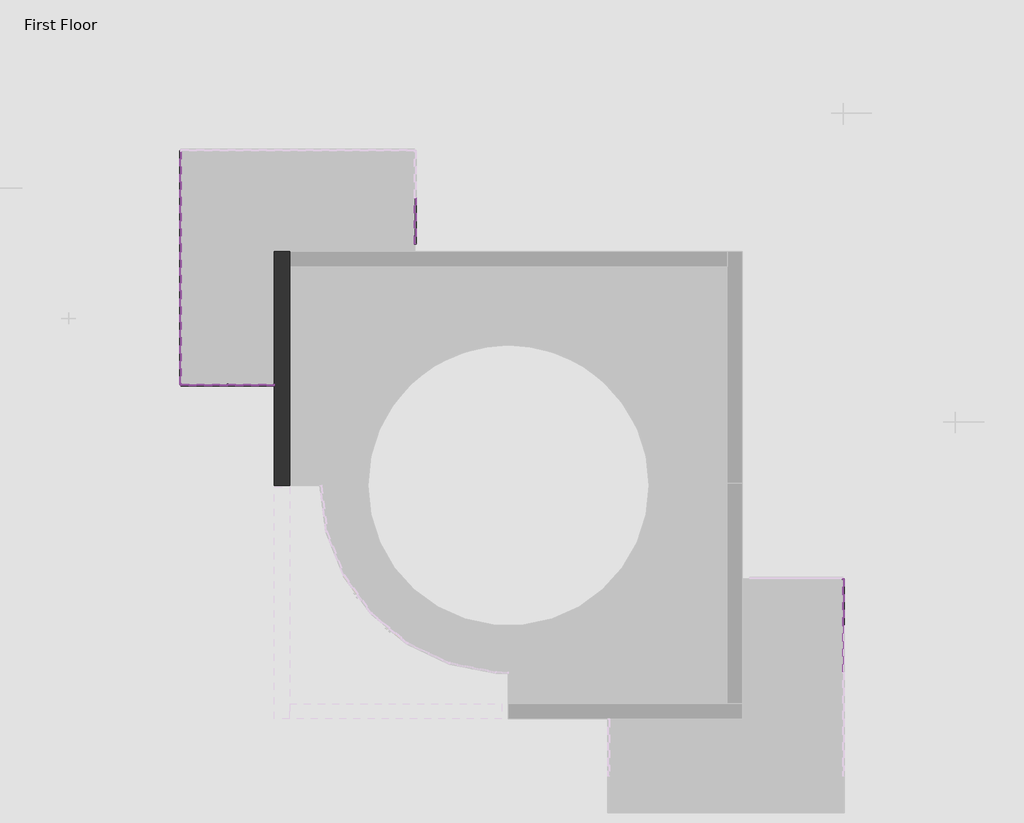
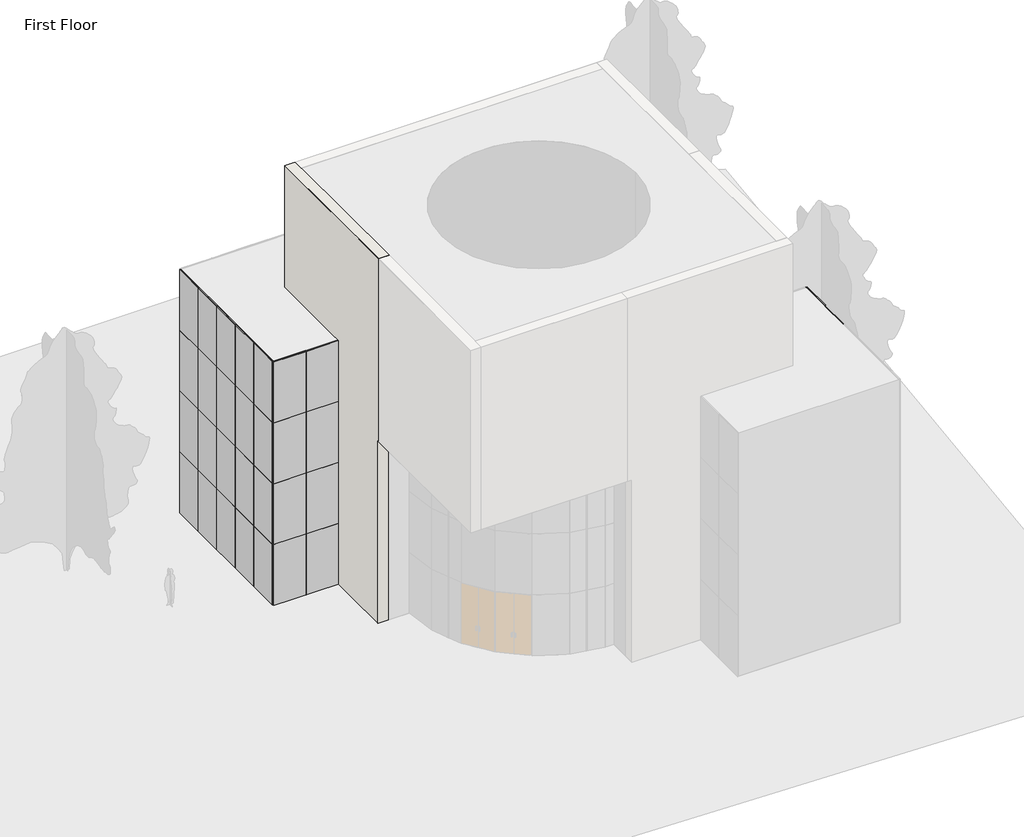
# One storey, part 3 of 4: 95 members, 36 plates, 1 wall.
"""IFC4 building model written with IfcOpenShell, lengths in millimetres."""

from ifc_helpers import new_model, si_unit, origin, place, context, project, spatial, faceted_brep, transform, mapped, element, save
from components import member_6604d1e0, member_9fd3d903, member_5e617a80, member_cbdb9076, member_74941792, member_7e523723, system_panel_glazed_9c75bc08

model = new_model("IFC4")

# Units and contexts
model_context = context("Model", 3, world=origin())
ifc_project = project(units=[si_unit("LENGTHUNIT", "METRE", prefix="MILLI")], contexts=[model_context])

# Site, building, storey
site = spatial("IfcSite", under=ifc_project)
building = spatial("IfcBuilding", under=site)
storey = spatial("IfcBuildingStorey", under=building, Name="First Floor", Elevation=0.0)

# Members
placement = place(None, origin())
member_shape = member_6604d1e0(model_context)
element("IfcMember", 1, ObjectType="Rectangular Mullion : 1\" Square", at=placement, inside=storey, context=model_context, shape_type="MappedRepresentation", body=[
    mapped(member_shape, transform((-13367.2140381, 3708.284638, 0.0), x_axis=(0.0, 0.0, -1.0), y_axis=(-1.0, 0.0, 0.0), z_axis=(0.0, 1.0, 0.0))),
])
element("IfcMember", 2, ObjectType="Rectangular Mullion : 1\" Square", at=placement, inside=storey, context=model_context, shape_type="MappedRepresentation", body=[
    mapped(member_shape, transform((-13367.2140381, 5232.284638, 0.0), x_axis=(0.0, 0.0, -1.0), y_axis=(-1.0, 0.0, 0.0), z_axis=(0.0, 1.0, 0.0))),
])
element("IfcMember", 3, ObjectType="Rectangular Mullion : 1\" Square", at=placement, inside=storey, context=model_context, shape_type="MappedRepresentation", body=[
    mapped(member_shape, transform((-13367.2140381, 6756.284638, 0.0), x_axis=(0.0, 0.0, -1.0), y_axis=(-1.0, 0.0, 0.0), z_axis=(0.0, 1.0, 0.0))),
])
member_2_shape = member_9fd3d903(model_context)
element("IfcMember", 4, ObjectType="Rectangular Mullion : 1\" Square", at=placement, inside=storey, context=model_context, shape_type="MappedRepresentation", body=[
    mapped(member_2_shape, transform((8203.4240488, -7194.3534489, 3048.0), x_axis=(0.0, 0.0, 1.0), y_axis=(1.0, 0.0, 0.0), z_axis=(0.0, 1.0, 0.0))),
])
element("IfcMember", 5, ObjectType="Rectangular Mullion : 1\" Square", at=placement, inside=storey, context=model_context, shape_type="MappedRepresentation", body=[
    mapped(member_2_shape, transform((-13367.2140381, 3733.684638, 6096.0), x_axis=(0.0, 0.0, 1.0), y_axis=(-1.0, 0.0, 0.0), z_axis=(0.0, -1.0, 0.0))),
])
element("IfcMember", 6, ObjectType="Rectangular Mullion : 1\" Square", at=placement, inside=storey, context=model_context, shape_type="MappedRepresentation", body=[
    mapped(member_2_shape, transform((-13367.2140381, 2209.684638, 3048.0), x_axis=(0.0, 0.0, 1.0), y_axis=(-1.0, 0.0, 0.0), z_axis=(0.0, -1.0, 0.0))),
])
element("IfcMember", 7, ObjectType="Rectangular Mullion : 1\" Square", at=placement, inside=storey, context=model_context, shape_type="MappedRepresentation", body=[
    mapped(member_2_shape, transform((-13367.2140381, 5257.684638, 3048.0), x_axis=(0.0, 0.0, 1.0), y_axis=(-1.0, 0.0, 0.0), z_axis=(0.0, -1.0, 0.0))),
])
element("IfcMember", 8, ObjectType="Rectangular Mullion : 1\" Square", at=placement, inside=storey, context=model_context, shape_type="MappedRepresentation", body=[
    mapped(member_2_shape, transform((-13367.2140381, 5257.684638, 6096.0), x_axis=(0.0, 0.0, 1.0), y_axis=(-1.0, 0.0, 0.0), z_axis=(0.0, -1.0, 0.0))),
])
element("IfcMember", 9, ObjectType="Rectangular Mullion : 1\" Square", at=placement, inside=storey, context=model_context, shape_type="MappedRepresentation", body=[
    mapped(member_2_shape, transform((-13367.2140381, 5257.684638, 9144.0), x_axis=(0.0, 0.0, 1.0), y_axis=(-1.0, 0.0, 0.0), z_axis=(0.0, -1.0, 0.0))),
])
element("IfcMember", 10, ObjectType="Rectangular Mullion : 1\" Square", at=placement, inside=storey, context=model_context, shape_type="MappedRepresentation", body=[
    mapped(member_2_shape, transform((-13367.2140381, 2209.684638, 6096.0), x_axis=(0.0, 0.0, 1.0), y_axis=(-1.0, 0.0, 0.0), z_axis=(0.0, -1.0, 0.0))),
])
element("IfcMember", 11, ObjectType="Rectangular Mullion : 1\" Square", at=placement, inside=storey, context=model_context, shape_type="MappedRepresentation", body=[
    mapped(member_2_shape, transform((-13367.2140381, 3733.684638, 3048.0), x_axis=(0.0, 0.0, 1.0), y_axis=(-1.0, 0.0, 0.0), z_axis=(0.0, -1.0, 0.0))),
])
element("IfcMember", 12, ObjectType="Rectangular Mullion : 1\" Square", at=placement, inside=storey, context=model_context, shape_type="MappedRepresentation", body=[
    mapped(member_2_shape, transform((-13367.2140381, 3733.684638, 9144.0), x_axis=(0.0, 0.0, 1.0), y_axis=(-1.0, 0.0, 0.0), z_axis=(0.0, -1.0, 0.0))),
])
element("IfcMember", 13, ObjectType="Rectangular Mullion : 1\" Square", at=placement, inside=storey, context=model_context, shape_type="MappedRepresentation", body=[
    mapped(member_2_shape, transform((-13367.2140381, 2209.684638, 9144.0), x_axis=(0.0, 0.0, 1.0), y_axis=(-1.0, 0.0, 0.0), z_axis=(0.0, -1.0, 0.0))),
])
member_3_shape = member_5e617a80(model_context)
element("IfcMember", 14, ObjectType="Rectangular Mullion : 1\" Square", at=placement, inside=storey, context=model_context, shape_type="MappedRepresentation", body=[
    mapped(member_3_shape, transform((8203.4240488, -5683.0534489, 9144.0), x_axis=(0.0, 0.0, 1.0), y_axis=(1.0, 0.0, 0.0), z_axis=(0.0, 1.0, 0.0))),
])
element("IfcMember", 15, ObjectType="Rectangular Mullion : 1\" Square", at=placement, inside=storey, context=model_context, shape_type="MappedRepresentation", body=[
    mapped(member_3_shape, transform((8203.4240488, -5683.0534489, 6096.0), x_axis=(0.0, 0.0, 1.0), y_axis=(1.0, 0.0, 0.0), z_axis=(0.0, 1.0, 0.0))),
])
element("IfcMember", 16, ObjectType="Rectangular Mullion : 1\" Square", at=placement, inside=storey, context=model_context, shape_type="MappedRepresentation", body=[
    mapped(member_3_shape, transform((8203.4240488, -5683.0534489, 3048.0), x_axis=(0.0, 0.0, 1.0), y_axis=(1.0, 0.0, 0.0), z_axis=(0.0, 1.0, 0.0))),
])
element("IfcMember", 17, ObjectType="Rectangular Mullion : 1\" Square", at=placement, inside=storey, context=model_context, shape_type="MappedRepresentation", body=[
    mapped(member_3_shape, transform((-5747.2140381, 6756.284638, 6096.0), x_axis=(0.0, 0.0, 1.0), y_axis=(1.0, 0.0, 0.0), z_axis=(0.0, 1.0, 0.0))),
])
element("IfcMember", 18, ObjectType="Rectangular Mullion : 1\" Square", at=placement, inside=storey, context=model_context, shape_type="MappedRepresentation", body=[
    mapped(member_3_shape, transform((-5747.2140381, 6756.284638, 3048.0), x_axis=(0.0, 0.0, 1.0), y_axis=(1.0, 0.0, 0.0), z_axis=(0.0, 1.0, 0.0))),
])
element("IfcMember", 19, ObjectType="Rectangular Mullion : 1\" Square", at=placement, inside=storey, context=model_context, shape_type="MappedRepresentation", body=[
    mapped(member_3_shape, transform((-5747.2140381, 6756.284638, 9144.0), x_axis=(0.0, 0.0, 1.0), y_axis=(1.0, 0.0, 0.0), z_axis=(0.0, 1.0, 0.0))),
])
element("IfcMember", 20, ObjectType="Rectangular Mullion : 1\" Square", at=placement, inside=storey, context=model_context, shape_type="MappedRepresentation", body=[
    mapped(member_3_shape, transform((-13367.2140381, 6781.684638, 3048.0), x_axis=(0.0, 0.0, 1.0), y_axis=(-1.0, 0.0, 0.0), z_axis=(0.0, -1.0, 0.0))),
])
element("IfcMember", 21, ObjectType="Rectangular Mullion : 1\" Square", at=placement, inside=storey, context=model_context, shape_type="MappedRepresentation", body=[
    mapped(member_3_shape, transform((-13367.2140381, 6781.684638, 9144.0), x_axis=(0.0, 0.0, 1.0), y_axis=(-1.0, 0.0, 0.0), z_axis=(0.0, -1.0, 0.0))),
])
element("IfcMember", 22, ObjectType="Rectangular Mullion : 1\" Square", at=placement, inside=storey, context=model_context, shape_type="MappedRepresentation", body=[
    mapped(member_3_shape, transform((-13367.2140381, 6781.684638, 6096.0), x_axis=(0.0, 0.0, 1.0), y_axis=(-1.0, 0.0, 0.0), z_axis=(0.0, -1.0, 0.0))),
])
element("IfcMember", 23, ObjectType="Rectangular Mullion : 1\" Square", at=placement, inside=storey, context=model_context, shape_type="MappedRepresentation", body=[
    mapped(member_3_shape, transform((-13367.2140381, 698.384638, 3048.0), x_axis=(0.0, 0.0, 1.0), y_axis=(-1.0, 0.0, 0.0), z_axis=(0.0, -1.0, 0.0))),
])
element("IfcMember", 24, ObjectType="Rectangular Mullion : 1\" Square", at=placement, inside=storey, context=model_context, shape_type="MappedRepresentation", body=[
    mapped(member_3_shape, transform((-13367.2140381, 698.384638, 6096.0), x_axis=(0.0, 0.0, 1.0), y_axis=(-1.0, 0.0, 0.0), z_axis=(0.0, -1.0, 0.0))),
])
element("IfcMember", 25, ObjectType="Rectangular Mullion : 1\" Square", at=placement, inside=storey, context=model_context, shape_type="MappedRepresentation", body=[
    mapped(member_3_shape, transform((-13367.2140381, 698.384638, 9144.0), x_axis=(0.0, 0.0, 1.0), y_axis=(-1.0, 0.0, 0.0), z_axis=(0.0, -1.0, 0.0))),
])
element("IfcMember", 26, ObjectType="Rectangular Mullion : 1\" Square", at=placement, inside=storey, context=model_context, shape_type="MappedRepresentation", body=[
    mapped(member_3_shape, transform((-11855.9140381, 672.984638, 6096.0), x_axis=(0.0, 0.0, 1.0), y_axis=(0.0, -1.0, 0.0), z_axis=(1.0, 0.0, 0.0))),
])
element("IfcMember", 27, ObjectType="Rectangular Mullion : 1\" Square", at=placement, inside=storey, context=model_context, shape_type="MappedRepresentation", body=[
    mapped(member_3_shape, transform((-11855.9140381, 672.984638, 3048.0), x_axis=(0.0, 0.0, 1.0), y_axis=(0.0, -1.0, 0.0), z_axis=(1.0, 0.0, 0.0))),
])
element("IfcMember", 28, ObjectType="Rectangular Mullion : 1\" Square", at=placement, inside=storey, context=model_context, shape_type="MappedRepresentation", body=[
    mapped(member_3_shape, transform((-11855.9140381, 672.984638, 9144.0), x_axis=(0.0, 0.0, 1.0), y_axis=(0.0, -1.0, 0.0), z_axis=(1.0, 0.0, 0.0))),
])
element("IfcMember", 29, ObjectType="Rectangular Mullion : 1\" Square", at=placement, inside=storey, context=model_context, shape_type="MappedRepresentation", body=[
    mapped(member_3_shape, transform((-10344.6140381, 672.984638, 9144.0), x_axis=(0.0, 0.0, 1.0), y_axis=(0.0, -1.0, 0.0), z_axis=(1.0, 0.0, 0.0))),
])
element("IfcMember", 30, ObjectType="Rectangular Mullion : 1\" Square", at=placement, inside=storey, context=model_context, shape_type="MappedRepresentation", body=[
    mapped(member_3_shape, transform((-10344.6140381, 672.984638, 6096.0), x_axis=(0.0, 0.0, 1.0), y_axis=(0.0, -1.0, 0.0), z_axis=(1.0, 0.0, 0.0))),
])
element("IfcMember", 31, ObjectType="Rectangular Mullion : 1\" Square", at=placement, inside=storey, context=model_context, shape_type="MappedRepresentation", body=[
    mapped(member_3_shape, transform((-10344.6140381, 672.984638, 3048.0), x_axis=(0.0, 0.0, 1.0), y_axis=(0.0, -1.0, 0.0), z_axis=(1.0, 0.0, 0.0))),
])
member_4_shape = member_cbdb9076(model_context)
element("IfcMember", 32, ObjectType="Rectangular Mullion : 1\" Square", at=placement, inside=storey, context=model_context, shape_type="MappedRepresentation", body=[
    mapped(member_4_shape, transform((-13367.2140381, 6768.984638, 9144.0), x_axis=(0.0, -1.0, 0.0), y_axis=(-1.0, 0.0, 0.0), z_axis=(0.0, 0.0, -1.0))),
])
element("IfcMember", 33, ObjectType="Rectangular Mullion : 1\" Square", at=placement, inside=storey, context=model_context, shape_type="MappedRepresentation", body=[
    mapped(member_4_shape, transform((-13367.2140381, 5244.984638, 9144.0), x_axis=(0.0, -1.0, 0.0), y_axis=(-1.0, 0.0, 0.0), z_axis=(0.0, 0.0, -1.0))),
])
element("IfcMember", 34, ObjectType="Rectangular Mullion : 1\" Square", at=placement, inside=storey, context=model_context, shape_type="MappedRepresentation", body=[
    mapped(member_4_shape, transform((-13367.2140381, 2196.984638, 9144.0), x_axis=(0.0, -1.0, 0.0), y_axis=(-1.0, 0.0, 0.0), z_axis=(0.0, 0.0, -1.0))),
])
element("IfcMember", 35, ObjectType="Rectangular Mullion : 1\" Square", at=placement, inside=storey, context=model_context, shape_type="MappedRepresentation", body=[
    mapped(member_4_shape, transform((-13367.2140381, 3720.984638, 9144.0), x_axis=(0.0, -1.0, 0.0), y_axis=(-1.0, 0.0, 0.0), z_axis=(0.0, 0.0, -1.0))),
])
element("IfcMember", 36, ObjectType="Rectangular Mullion : 1\" Square", at=placement, inside=storey, context=model_context, shape_type="MappedRepresentation", body=[
    mapped(member_4_shape, transform((-11843.2140381, 672.984638, 9144.0), x_axis=(1.0, 0.0, 0.0), y_axis=(0.0, -1.0, 0.0), z_axis=(0.0, 0.0, -1.0))),
])
element("IfcMember", 37, ObjectType="Rectangular Mullion : 1\" Square", at=placement, inside=storey, context=model_context, shape_type="MappedRepresentation", body=[
    mapped(member_4_shape, transform((8203.4240488, -7181.6534489, 3048.0), x_axis=(0.0, 1.0, 0.0), y_axis=(1.0, 0.0, 0.0), z_axis=(0.0, 0.0, -1.0))),
])
element("IfcMember", 38, ObjectType="Rectangular Mullion : 1\" Square", at=placement, inside=storey, context=model_context, shape_type="MappedRepresentation", body=[
    mapped(member_4_shape, transform((-13367.2140381, 6768.984638, 3048.0), x_axis=(0.0, -1.0, 0.0), y_axis=(-1.0, 0.0, 0.0), z_axis=(0.0, 0.0, -1.0))),
])
element("IfcMember", 39, ObjectType="Rectangular Mullion : 1\" Square", at=placement, inside=storey, context=model_context, shape_type="MappedRepresentation", body=[
    mapped(member_4_shape, transform((-13367.2140381, 6768.984638, 6096.0), x_axis=(0.0, -1.0, 0.0), y_axis=(-1.0, 0.0, 0.0), z_axis=(0.0, 0.0, -1.0))),
])
element("IfcMember", 40, ObjectType="Rectangular Mullion : 1\" Square", at=placement, inside=storey, context=model_context, shape_type="MappedRepresentation", body=[
    mapped(member_4_shape, transform((-13367.2140381, 5244.984638, 3048.0), x_axis=(0.0, -1.0, 0.0), y_axis=(-1.0, 0.0, 0.0), z_axis=(0.0, 0.0, -1.0))),
])
element("IfcMember", 41, ObjectType="Rectangular Mullion : 1\" Square", at=placement, inside=storey, context=model_context, shape_type="MappedRepresentation", body=[
    mapped(member_4_shape, transform((-13367.2140381, 5244.984638, 6096.0), x_axis=(0.0, -1.0, 0.0), y_axis=(-1.0, 0.0, 0.0), z_axis=(0.0, 0.0, -1.0))),
])
element("IfcMember", 42, ObjectType="Rectangular Mullion : 1\" Square", at=placement, inside=storey, context=model_context, shape_type="MappedRepresentation", body=[
    mapped(member_4_shape, transform((-13367.2140381, 3720.984638, 3048.0), x_axis=(0.0, -1.0, 0.0), y_axis=(-1.0, 0.0, 0.0), z_axis=(0.0, 0.0, -1.0))),
])
element("IfcMember", 43, ObjectType="Rectangular Mullion : 1\" Square", at=placement, inside=storey, context=model_context, shape_type="MappedRepresentation", body=[
    mapped(member_4_shape, transform((-13367.2140381, 2196.984638, 6096.0), x_axis=(0.0, -1.0, 0.0), y_axis=(-1.0, 0.0, 0.0), z_axis=(0.0, 0.0, -1.0))),
])
element("IfcMember", 44, ObjectType="Rectangular Mullion : 1\" Square", at=placement, inside=storey, context=model_context, shape_type="MappedRepresentation", body=[
    mapped(member_4_shape, transform((-13367.2140381, 2196.984638, 3048.0), x_axis=(0.0, -1.0, 0.0), y_axis=(-1.0, 0.0, 0.0), z_axis=(0.0, 0.0, -1.0))),
])
element("IfcMember", 45, ObjectType="Rectangular Mullion : 1\" Square", at=placement, inside=storey, context=model_context, shape_type="MappedRepresentation", body=[
    mapped(member_4_shape, transform((-13367.2140381, 3720.984638, 6096.0), x_axis=(0.0, -1.0, 0.0), y_axis=(-1.0, 0.0, 0.0), z_axis=(0.0, 0.0, -1.0))),
])
element("IfcMember", 46, ObjectType="Rectangular Mullion : 1\" Square", at=placement, inside=storey, context=model_context, shape_type="MappedRepresentation", body=[
    mapped(member_4_shape, transform((-11843.2140381, 672.984638, 3048.0), x_axis=(1.0, 0.0, 0.0), y_axis=(0.0, -1.0, 0.0), z_axis=(0.0, 0.0, -1.0))),
])
element("IfcMember", 47, ObjectType="Rectangular Mullion : 1\" Square", at=placement, inside=storey, context=model_context, shape_type="MappedRepresentation", body=[
    mapped(member_4_shape, transform((-11843.2140381, 672.984638, 6096.0), x_axis=(1.0, 0.0, 0.0), y_axis=(0.0, -1.0, 0.0), z_axis=(0.0, 0.0, -1.0))),
])
element("IfcMember", 48, ObjectType="Rectangular Mullion : 1\" Square", at=placement, inside=storey, context=model_context, shape_type="MappedRepresentation", body=[
    mapped(member_shape, transform((8203.4240488, -7194.3534489, 12192.0), x_axis=(0.0, 0.0, 1.0), y_axis=(1.0, 0.0, 0.0), z_axis=(0.0, 1.0, 0.0))),
])
element("IfcMember", 49, ObjectType="Rectangular Mullion : 1\" Square", at=placement, inside=storey, context=model_context, shape_type="MappedRepresentation", body=[
    mapped(member_shape, transform((-13367.2140381, 5257.684638, 12192.0), x_axis=(0.0, 0.0, 1.0), y_axis=(-1.0, 0.0, 0.0), z_axis=(0.0, -1.0, 0.0))),
])
element("IfcMember", 50, ObjectType="Rectangular Mullion : 1\" Square", at=placement, inside=storey, context=model_context, shape_type="MappedRepresentation", body=[
    mapped(member_shape, transform((-13367.2140381, 3733.684638, 12192.0), x_axis=(0.0, 0.0, 1.0), y_axis=(-1.0, 0.0, 0.0), z_axis=(0.0, -1.0, 0.0))),
])
element("IfcMember", 51, ObjectType="Rectangular Mullion : 1\" Square", at=placement, inside=storey, context=model_context, shape_type="MappedRepresentation", body=[
    mapped(member_shape, transform((-13367.2140381, 2209.684638, 12192.0), x_axis=(0.0, 0.0, 1.0), y_axis=(-1.0, 0.0, 0.0), z_axis=(0.0, -1.0, 0.0))),
])
member_5_shape = member_74941792(model_context)
element("IfcMember", 52, ObjectType="Rectangular Mullion : 1\" Square", at=placement, inside=storey, context=model_context, shape_type="MappedRepresentation", body=[
    mapped(member_5_shape, transform((8203.4240488, -7168.9534489, 0.0), x_axis=(0.0, 0.0, -1.0), y_axis=(1.0, 0.0, 0.0), z_axis=(0.0, -1.0, 0.0))),
])
element("IfcMember", 53, ObjectType="Rectangular Mullion : 1\" Square", at=placement, inside=storey, context=model_context, shape_type="MappedRepresentation", body=[
    mapped(member_5_shape, transform((8178.0240488, -5657.6534489, 0.0), x_axis=(0.0, 0.0, -1.0), y_axis=(0.0, 1.0, 0.0), z_axis=(1.0, 0.0, 0.0))),
])
element("IfcMember", 54, ObjectType="Rectangular Mullion : 1\" Square", at=placement, inside=storey, context=model_context, shape_type="MappedRepresentation", body=[
    mapped(member_5_shape, transform((-5747.2140381, 5270.384638, 0.0), x_axis=(0.0, 0.0, -1.0), y_axis=(1.0, 0.0, 0.0), z_axis=(0.0, -1.0, 0.0))),
])
element("IfcMember", 55, ObjectType="Rectangular Mullion : 1\" Square", at=placement, inside=storey, context=model_context, shape_type="MappedRepresentation", body=[
    mapped(member_5_shape, transform((-5747.2140381, 6781.684638, 0.0), x_axis=(0.0, 0.0, -1.0), y_axis=(1.0, 0.0, 0.0), z_axis=(0.0, -1.0, 0.0))),
])
element("IfcMember", 56, ObjectType="Rectangular Mullion : 1\" Square", at=placement, inside=storey, context=model_context, shape_type="MappedRepresentation", body=[
    mapped(member_5_shape, transform((-13367.2140381, 2184.284638, 0.0), x_axis=(0.0, 0.0, -1.0), y_axis=(-1.0, 0.0, 0.0), z_axis=(0.0, 1.0, 0.0))),
])
element("IfcMember", 57, ObjectType="Rectangular Mullion : 1\" Square", at=placement, inside=storey, context=model_context, shape_type="MappedRepresentation", body=[
    mapped(member_5_shape, transform((-13341.8140381, 672.984638, 0.0), x_axis=(0.0, 0.0, -1.0), y_axis=(0.0, -1.0, 0.0), z_axis=(-1.0, 0.0, 0.0))),
])
element("IfcMember", 58, ObjectType="Rectangular Mullion : 1\" Square", at=placement, inside=storey, context=model_context, shape_type="MappedRepresentation", body=[
    mapped(member_5_shape, transform((-11830.5140381, 672.984638, 0.0), x_axis=(0.0, 0.0, -1.0), y_axis=(0.0, -1.0, 0.0), z_axis=(-1.0, 0.0, 0.0))),
])
element("IfcMember", 59, ObjectType="Rectangular Mullion : 1\" Square", at=placement, inside=storey, context=model_context, shape_type="MappedRepresentation", body=[
    mapped(member_5_shape, transform((8203.4240488, -5683.0534489, 12192.0), x_axis=(0.0, 0.0, 1.0), y_axis=(1.0, 0.0, 0.0), z_axis=(0.0, 1.0, 0.0))),
])
element("IfcMember", 60, ObjectType="Rectangular Mullion : 1\" Square", at=placement, inside=storey, context=model_context, shape_type="MappedRepresentation", body=[
    mapped(member_5_shape, transform((-5747.2140381, 6756.284638, 12192.0), x_axis=(0.0, 0.0, 1.0), y_axis=(1.0, 0.0, 0.0), z_axis=(0.0, 1.0, 0.0))),
])
element("IfcMember", 61, ObjectType="Rectangular Mullion : 1\" Square", at=placement, inside=storey, context=model_context, shape_type="MappedRepresentation", body=[
    mapped(member_5_shape, transform((-13367.2140381, 6781.684638, 12192.0), x_axis=(0.0, 0.0, 1.0), y_axis=(-1.0, 0.0, 0.0), z_axis=(0.0, -1.0, 0.0))),
])
element("IfcMember", 62, ObjectType="Rectangular Mullion : 1\" Square", at=placement, inside=storey, context=model_context, shape_type="MappedRepresentation", body=[
    mapped(member_5_shape, transform((-13367.2140381, 698.384638, 12192.0), x_axis=(0.0, 0.0, 1.0), y_axis=(-1.0, 0.0, 0.0), z_axis=(0.0, -1.0, 0.0))),
])
element("IfcMember", 63, ObjectType="Rectangular Mullion : 1\" Square", at=placement, inside=storey, context=model_context, shape_type="MappedRepresentation", body=[
    mapped(member_5_shape, transform((-11855.9140381, 672.984638, 12192.0), x_axis=(0.0, 0.0, 1.0), y_axis=(0.0, -1.0, 0.0), z_axis=(1.0, 0.0, 0.0))),
])
element("IfcMember", 64, ObjectType="Rectangular Mullion : 1\" Square", at=placement, inside=storey, context=model_context, shape_type="MappedRepresentation", body=[
    mapped(member_5_shape, transform((-10344.6140381, 672.984638, 12192.0), x_axis=(0.0, 0.0, 1.0), y_axis=(0.0, -1.0, 0.0), z_axis=(1.0, 0.0, 0.0))),
])
element("IfcMember", 65, ObjectType="Rectangular Mullion : 1\" Square", at=placement, inside=storey, context=model_context, shape_type="MappedRepresentation", body=[
    mapped(member_4_shape, transform((8203.4240488, -7181.6534489, 0.0), x_axis=(0.0, 1.0, 0.0), y_axis=(1.0, 0.0, 0.0), z_axis=(0.0, 0.0, -1.0))),
])
element("IfcMember", 66, ObjectType="Rectangular Mullion : 1\" Square", at=placement, inside=storey, context=model_context, shape_type="MappedRepresentation", body=[
    mapped(member_4_shape, transform((-5747.2140381, 6768.984638, 0.0), x_axis=(0.0, 1.0, 0.0), y_axis=(1.0, 0.0, 0.0), z_axis=(0.0, 0.0, -1.0))),
])
element("IfcMember", 67, ObjectType="Rectangular Mullion : 1\" Square", at=placement, inside=storey, context=model_context, shape_type="MappedRepresentation", body=[
    mapped(member_4_shape, transform((-13367.2140381, 2196.984638, 0.0), x_axis=(0.0, -1.0, 0.0), y_axis=(-1.0, 0.0, 0.0), z_axis=(0.0, 0.0, -1.0))),
])
element("IfcMember", 68, ObjectType="Rectangular Mullion : 1\" Square", at=placement, inside=storey, context=model_context, shape_type="MappedRepresentation", body=[
    mapped(member_4_shape, transform((-13367.2140381, 5244.984638, 0.0), x_axis=(0.0, -1.0, 0.0), y_axis=(-1.0, 0.0, 0.0), z_axis=(0.0, 0.0, -1.0))),
])
element("IfcMember", 69, ObjectType="Rectangular Mullion : 1\" Square", at=placement, inside=storey, context=model_context, shape_type="MappedRepresentation", body=[
    mapped(member_4_shape, transform((-13367.2140381, 6768.984638, 0.0), x_axis=(0.0, -1.0, 0.0), y_axis=(-1.0, 0.0, 0.0), z_axis=(0.0, 0.0, -1.0))),
])
element("IfcMember", 70, ObjectType="Rectangular Mullion : 1\" Square", at=placement, inside=storey, context=model_context, shape_type="MappedRepresentation", body=[
    mapped(member_4_shape, transform((-13367.2140381, 3720.984638, 0.0), x_axis=(0.0, -1.0, 0.0), y_axis=(-1.0, 0.0, 0.0), z_axis=(0.0, 0.0, -1.0))),
])
element("IfcMember", 71, ObjectType="Rectangular Mullion : 1\" Square", at=placement, inside=storey, context=model_context, shape_type="MappedRepresentation", body=[
    mapped(member_4_shape, transform((-11843.2140381, 672.984638, 0.0), x_axis=(1.0, 0.0, 0.0), y_axis=(0.0, -1.0, 0.0), z_axis=(0.0, 0.0, -1.0))),
])
member_6_shape = member_7e523723(model_context)
element("IfcMember", 72, ObjectType="Rectangular Mullion : 1\" Square", at=placement, inside=storey, context=model_context, shape_type="MappedRepresentation", body=[
    mapped(member_6_shape, transform((8203.4240488, -5657.6534489, 6096.0), x_axis=(1.0, 0.0, 0.0), y_axis=(0.0, 1.0, 0.0), z_axis=(0.0, 0.0, 1.0))),
])
element("IfcMember", 73, ObjectType="Rectangular Mullion : 1\" Square", at=placement, inside=storey, context=model_context, shape_type="MappedRepresentation", body=[
    mapped(member_6_shape, transform((8203.4240488, -5657.6534489, 9144.0), x_axis=(1.0, 0.0, 0.0), y_axis=(0.0, 1.0, 0.0), z_axis=(0.0, 0.0, 1.0))),
])
element("IfcMember", 74, ObjectType="Rectangular Mullion : 1\" Square", at=placement, inside=storey, context=model_context, shape_type="MappedRepresentation", body=[
    mapped(member_6_shape, transform((-5747.2140381, 5244.984638, 6096.0), x_axis=(0.0, -1.0, 0.0), y_axis=(1.0, 0.0, 0.0), z_axis=(0.0, 0.0, 1.0))),
])
element("IfcMember", 75, ObjectType="Rectangular Mullion : 1\" Square", at=placement, inside=storey, context=model_context, shape_type="MappedRepresentation", body=[
    mapped(member_6_shape, transform((-5747.2140381, 5244.984638, 9144.0), x_axis=(0.0, -1.0, 0.0), y_axis=(1.0, 0.0, 0.0), z_axis=(0.0, 0.0, 1.0))),
])
element("IfcMember", 76, ObjectType="Rectangular Mullion : 1\" Square", at=placement, inside=storey, context=model_context, shape_type="MappedRepresentation", body=[
    mapped(member_6_shape, transform((-13367.2140381, 672.984638, 9144.0), x_axis=(-1.0, 0.0, 0.0), y_axis=(0.0, -1.0, 0.0), z_axis=(0.0, 0.0, 1.0))),
])
element("IfcMember", 77, ObjectType="Rectangular Mullion : 1\" Square", at=placement, inside=storey, context=model_context, shape_type="MappedRepresentation", body=[
    mapped(member_6_shape, transform((-13367.2140381, 672.984638, 6096.0), x_axis=(-1.0, 0.0, 0.0), y_axis=(0.0, -1.0, 0.0), z_axis=(0.0, 0.0, 1.0))),
])
element("IfcMember", 78, ObjectType="Rectangular Mullion : 1\" Square", at=placement, inside=storey, context=model_context, shape_type="MappedRepresentation", body=[
    mapped(member_6_shape, transform((8203.4240488, -5657.6534489, 3048.0), x_axis=(1.0, 0.0, 0.0), y_axis=(0.0, 1.0, 0.0), z_axis=(0.0, 0.0, 1.0))),
])
element("IfcMember", 79, ObjectType="Rectangular Mullion : 1\" Square", at=placement, inside=storey, context=model_context, shape_type="MappedRepresentation", body=[
    mapped(member_6_shape, transform((-5747.2140381, 5244.984638, 3048.0), x_axis=(0.0, -1.0, 0.0), y_axis=(1.0, 0.0, 0.0), z_axis=(0.0, 0.0, 1.0))),
])
element("IfcMember", 80, ObjectType="Rectangular Mullion : 1\" Square", at=placement, inside=storey, context=model_context, shape_type="MappedRepresentation", body=[
    mapped(member_6_shape, transform((-13367.2140381, 672.984638, 3048.0), x_axis=(-1.0, 0.0, 0.0), y_axis=(0.0, -1.0, 0.0), z_axis=(0.0, 0.0, 1.0))),
])
element("IfcMember", 81, ObjectType="Rectangular Mullion : 1\" Square", at=placement, inside=storey, context=model_context, shape_type="MappedRepresentation", body=[
    mapped(member_6_shape, transform((8203.4240488, -5657.6534489, 3048.0), x_axis=(0.0, 1.0, 0.0), y_axis=(1.0, 0.0, 0.0), z_axis=(0.0, 0.0, -1.0))),
])
element("IfcMember", 82, ObjectType="Rectangular Mullion : 1\" Square", at=placement, inside=storey, context=model_context, shape_type="MappedRepresentation", body=[
    mapped(member_6_shape, transform((8203.4240488, -5657.6534489, 6096.0), x_axis=(0.0, 1.0, 0.0), y_axis=(1.0, 0.0, 0.0), z_axis=(0.0, 0.0, -1.0))),
])
element("IfcMember", 83, ObjectType="Rectangular Mullion : 1\" Square", at=placement, inside=storey, context=model_context, shape_type="MappedRepresentation", body=[
    mapped(member_6_shape, transform((-13367.2140381, 672.984638, 6096.0), x_axis=(0.0, -1.0, 0.0), y_axis=(-1.0, 0.0, 0.0), z_axis=(0.0, 0.0, -1.0))),
])
element("IfcMember", 84, ObjectType="Rectangular Mullion : 1\" Square", at=placement, inside=storey, context=model_context, shape_type="MappedRepresentation", body=[
    mapped(member_6_shape, transform((-13367.2140381, 672.984638, 3048.0), x_axis=(0.0, -1.0, 0.0), y_axis=(-1.0, 0.0, 0.0), z_axis=(0.0, 0.0, -1.0))),
])
element("IfcMember", 85, ObjectType="Rectangular Mullion : 1\" Square", at=placement, inside=storey, context=model_context, shape_type="MappedRepresentation", body=[
    mapped(member_6_shape, transform((-10319.2140381, 672.984638, 3048.0), x_axis=(1.0, 0.0, 0.0), y_axis=(0.0, -1.0, 0.0), z_axis=(0.0, 0.0, -1.0))),
])
element("IfcMember", 86, ObjectType="Rectangular Mullion : 1\" Square", at=placement, inside=storey, context=model_context, shape_type="MappedRepresentation", body=[
    mapped(member_6_shape, transform((-10319.2140381, 672.984638, 6096.0), x_axis=(1.0, 0.0, 0.0), y_axis=(0.0, -1.0, 0.0), z_axis=(0.0, 0.0, -1.0))),
])
element("IfcMember", 87, ObjectType="Rectangular Mullion : 1\" Square", at=placement, inside=storey, context=model_context, shape_type="MappedRepresentation", body=[
    mapped(member_6_shape, transform((8203.4240488, -5657.6534489, 9144.0), x_axis=(0.0, 1.0, 0.0), y_axis=(1.0, 0.0, 0.0), z_axis=(0.0, 0.0, -1.0))),
])
element("IfcMember", 88, ObjectType="Rectangular Mullion : 1\" Square", at=placement, inside=storey, context=model_context, shape_type="MappedRepresentation", body=[
    mapped(member_6_shape, transform((-13367.2140381, 672.984638, 9144.0), x_axis=(0.0, -1.0, 0.0), y_axis=(-1.0, 0.0, 0.0), z_axis=(0.0, 0.0, -1.0))),
])
element("IfcMember", 89, ObjectType="Rectangular Mullion : 1\" Square", at=placement, inside=storey, context=model_context, shape_type="MappedRepresentation", body=[
    mapped(member_6_shape, transform((-10319.2140381, 672.984638, 9144.0), x_axis=(1.0, 0.0, 0.0), y_axis=(0.0, -1.0, 0.0), z_axis=(0.0, 0.0, -1.0))),
])
element("IfcMember", 90, ObjectType="Rectangular Mullion : 1\" Square", at=placement, inside=storey, context=model_context, shape_type="MappedRepresentation", body=[
    mapped(member_6_shape, transform((8203.4240488, -5657.6534489, 0.0), x_axis=(0.0, 1.0, 0.0), y_axis=(1.0, 0.0, 0.0), z_axis=(0.0, 0.0, -1.0))),
])
element("IfcMember", 91, ObjectType="Rectangular Mullion : 1\" Square", at=placement, inside=storey, context=model_context, shape_type="MappedRepresentation", body=[
    mapped(member_6_shape, transform((-13367.2140381, 672.984638, 0.0), x_axis=(0.0, -1.0, 0.0), y_axis=(-1.0, 0.0, 0.0), z_axis=(0.0, 0.0, -1.0))),
])
element("IfcMember", 92, ObjectType="Rectangular Mullion : 1\" Square", at=placement, inside=storey, context=model_context, shape_type="MappedRepresentation", body=[
    mapped(member_6_shape, transform((-10319.2140381, 672.984638, 0.0), x_axis=(1.0, 0.0, 0.0), y_axis=(0.0, -1.0, 0.0), z_axis=(0.0, 0.0, -1.0))),
])
element("IfcMember", 93, ObjectType="Rectangular Mullion : 1\" Square", at=placement, inside=storey, context=model_context, shape_type="MappedRepresentation", body=[
    mapped(member_6_shape, transform((8203.4240488, -5657.6534489, 12192.0), x_axis=(1.0, 0.0, 0.0), y_axis=(0.0, 1.0, 0.0), z_axis=(0.0, 0.0, 1.0))),
])
element("IfcMember", 94, ObjectType="Rectangular Mullion : 1\" Square", at=placement, inside=storey, context=model_context, shape_type="MappedRepresentation", body=[
    mapped(member_6_shape, transform((-5747.2140381, 5244.984638, 12192.0), x_axis=(0.0, -1.0, 0.0), y_axis=(1.0, 0.0, 0.0), z_axis=(0.0, 0.0, 1.0))),
])
element("IfcMember", 95, ObjectType="Rectangular Mullion : 1\" Square", at=placement, inside=storey, context=model_context, shape_type="MappedRepresentation", body=[
    mapped(member_6_shape, transform((-13367.2140381, 672.984638, 12192.0), x_axis=(-1.0, 0.0, 0.0), y_axis=(0.0, -1.0, 0.0), z_axis=(0.0, 0.0, 1.0))),
])

# Plates
system_panel_glazed_shape = system_panel_glazed_9c75bc08(model_context)
element("IfcPlate", 96, ObjectType="System Panel : Glazed", at=placement, inside=storey, context=model_context, shape_type="MappedRepresentation", body=[
    mapped(system_panel_glazed_shape, transform((-13367.2140381, 7530.984638, 0.0), x_axis=(0.0, -1.0, 0.0), y_axis=(1.0, 0.0, 0.0), z_axis=(0.0, 0.0, 1.0))),
])
element("IfcPlate", 97, ObjectType="System Panel : Glazed", at=placement, inside=storey, context=model_context, shape_type="MappedRepresentation", body=[
    mapped(system_panel_glazed_shape, transform((-13367.2140381, 6006.984638, 0.0), x_axis=(0.0, -1.0, 0.0), y_axis=(1.0, 0.0, 0.0), z_axis=(0.0, 0.0, 1.0))),
])
element("IfcPlate", 98, ObjectType="System Panel : Glazed", at=placement, inside=storey, context=model_context, shape_type="MappedRepresentation", body=[
    mapped(system_panel_glazed_shape, transform((-13367.2140381, 4482.984638, 0.0), x_axis=(0.0, -1.0, 0.0), y_axis=(1.0, 0.0, 0.0), z_axis=(0.0, 0.0, 1.0))),
])
element("IfcPlate", 99, ObjectType="System Panel : Glazed", at=placement, inside=storey, context=model_context, shape_type="MappedRepresentation", body=[
    mapped(system_panel_glazed_shape, transform((-13367.2140381, 2958.984638, 0.0), x_axis=(0.0, -1.0, 0.0), y_axis=(1.0, 0.0, 0.0), z_axis=(0.0, 0.0, 1.0))),
])
element("IfcPlate", 100, ObjectType="System Panel : Glazed", at=placement, inside=storey, context=model_context, shape_type="MappedRepresentation", body=[
    mapped(system_panel_glazed_shape, transform((-13367.2140381, 1434.984638, 0.0), x_axis=(0.0, -1.0, 0.0), y_axis=(1.0, 0.0, 0.0), z_axis=(0.0, 0.0, 1.0))),
])
element("IfcPlate", 101, ObjectType="System Panel : Glazed", at=placement, inside=storey, context=model_context, shape_type="MappedRepresentation", body=[
    mapped(system_panel_glazed_shape, transform((-13367.2140381, 7530.984638, 3048.0), x_axis=(0.0, -1.0, 0.0), y_axis=(1.0, 0.0, 0.0), z_axis=(0.0, 0.0, 1.0))),
])
element("IfcPlate", 102, ObjectType="System Panel : Glazed", at=placement, inside=storey, context=model_context, shape_type="MappedRepresentation", body=[
    mapped(system_panel_glazed_shape, transform((-13367.2140381, 6006.984638, 3048.0), x_axis=(0.0, -1.0, 0.0), y_axis=(1.0, 0.0, 0.0), z_axis=(0.0, 0.0, 1.0))),
])
element("IfcPlate", 103, ObjectType="System Panel : Glazed", at=placement, inside=storey, context=model_context, shape_type="MappedRepresentation", body=[
    mapped(system_panel_glazed_shape, transform((-13367.2140381, 4482.984638, 3048.0), x_axis=(0.0, -1.0, 0.0), y_axis=(1.0, 0.0, 0.0), z_axis=(0.0, 0.0, 1.0))),
])
element("IfcPlate", 104, ObjectType="System Panel : Glazed", at=placement, inside=storey, context=model_context, shape_type="MappedRepresentation", body=[
    mapped(system_panel_glazed_shape, transform((-13367.2140381, 2958.984638, 3048.0), x_axis=(0.0, -1.0, 0.0), y_axis=(1.0, 0.0, 0.0), z_axis=(0.0, 0.0, 1.0))),
])
element("IfcPlate", 105, ObjectType="System Panel : Glazed", at=placement, inside=storey, context=model_context, shape_type="MappedRepresentation", body=[
    mapped(system_panel_glazed_shape, transform((-13367.2140381, 1434.984638, 3048.0), x_axis=(0.0, -1.0, 0.0), y_axis=(1.0, 0.0, 0.0), z_axis=(0.0, 0.0, 1.0))),
])
element("IfcPlate", 106, ObjectType="System Panel : Glazed", at=placement, inside=storey, context=model_context, shape_type="MappedRepresentation", body=[
    mapped(system_panel_glazed_shape, transform((-13367.2140381, 7530.984638, 6096.0), x_axis=(0.0, -1.0, 0.0), y_axis=(1.0, 0.0, 0.0), z_axis=(0.0, 0.0, 1.0))),
])
element("IfcPlate", 107, ObjectType="System Panel : Glazed", at=placement, inside=storey, context=model_context, shape_type="MappedRepresentation", body=[
    mapped(system_panel_glazed_shape, transform((-13367.2140381, 6006.984638, 6096.0), x_axis=(0.0, -1.0, 0.0), y_axis=(1.0, 0.0, 0.0), z_axis=(0.0, 0.0, 1.0))),
])
element("IfcPlate", 108, ObjectType="System Panel : Glazed", at=placement, inside=storey, context=model_context, shape_type="MappedRepresentation", body=[
    mapped(system_panel_glazed_shape, transform((-13367.2140381, 4482.984638, 6096.0), x_axis=(0.0, -1.0, 0.0), y_axis=(1.0, 0.0, 0.0), z_axis=(0.0, 0.0, 1.0))),
])
element("IfcPlate", 109, ObjectType="System Panel : Glazed", at=placement, inside=storey, context=model_context, shape_type="MappedRepresentation", body=[
    mapped(system_panel_glazed_shape, transform((-13367.2140381, 2958.984638, 6096.0), x_axis=(0.0, -1.0, 0.0), y_axis=(1.0, 0.0, 0.0), z_axis=(0.0, 0.0, 1.0))),
])
element("IfcPlate", 110, ObjectType="System Panel : Glazed", at=placement, inside=storey, context=model_context, shape_type="MappedRepresentation", body=[
    mapped(system_panel_glazed_shape, transform((-13367.2140381, 1434.984638, 6096.0), x_axis=(0.0, -1.0, 0.0), y_axis=(1.0, 0.0, 0.0), z_axis=(0.0, 0.0, 1.0))),
])
element("IfcPlate", 111, ObjectType="System Panel : Glazed", at=placement, inside=storey, context=model_context, shape_type="MappedRepresentation", body=[
    mapped(system_panel_glazed_shape, transform((-13367.2140381, 7530.984638, 9144.0), x_axis=(0.0, -1.0, 0.0), y_axis=(1.0, 0.0, 0.0), z_axis=(0.0, 0.0, 1.0))),
])
element("IfcPlate", 112, ObjectType="System Panel : Glazed", at=placement, inside=storey, context=model_context, shape_type="MappedRepresentation", body=[
    mapped(system_panel_glazed_shape, transform((-13367.2140381, 6006.984638, 9144.0), x_axis=(0.0, -1.0, 0.0), y_axis=(1.0, 0.0, 0.0), z_axis=(0.0, 0.0, 1.0))),
])
element("IfcPlate", 113, ObjectType="System Panel : Glazed", at=placement, inside=storey, context=model_context, shape_type="MappedRepresentation", body=[
    mapped(system_panel_glazed_shape, transform((-13367.2140381, 4482.984638, 9144.0), x_axis=(0.0, -1.0, 0.0), y_axis=(1.0, 0.0, 0.0), z_axis=(0.0, 0.0, 1.0))),
])
element("IfcPlate", 114, ObjectType="System Panel : Glazed", at=placement, inside=storey, context=model_context, shape_type="MappedRepresentation", body=[
    mapped(system_panel_glazed_shape, transform((-13367.2140381, 2958.984638, 9144.0), x_axis=(0.0, -1.0, 0.0), y_axis=(1.0, 0.0, 0.0), z_axis=(0.0, 0.0, 1.0))),
])
element("IfcPlate", 115, ObjectType="System Panel : Glazed", at=placement, inside=storey, context=model_context, shape_type="MappedRepresentation", body=[
    mapped(system_panel_glazed_shape, transform((-13367.2140381, 1434.984638, 9144.0), x_axis=(0.0, -1.0, 0.0), y_axis=(1.0, 0.0, 0.0), z_axis=(0.0, 0.0, 1.0))),
])
element("IfcPlate", 116, ObjectType="System Panel : Glazed", at=placement, inside=storey, context=model_context, shape_type="MappedRepresentation", body=[
    mapped(system_panel_glazed_shape, transform((-12605.2140381, 672.984638, 0.0), x_axis=(1.0, 0.0, 0.0), y_axis=(0.0, 1.0, 0.0), z_axis=(0.0, 0.0, 1.0))),
])
element("IfcPlate", 117, ObjectType="System Panel : Glazed", at=placement, inside=storey, context=model_context, shape_type="MappedRepresentation", body=[
    mapped(system_panel_glazed_shape, transform((-11081.2140381, 672.984638, 0.0), x_axis=(1.0, 0.0, 0.0), y_axis=(0.0, 1.0, 0.0), z_axis=(0.0, 0.0, 1.0))),
])
element("IfcPlate", 118, ObjectType="System Panel : Glazed", at=placement, inside=storey, context=model_context, shape_type="MappedRepresentation", body=[
    mapped(system_panel_glazed_shape, transform((-12605.2140381, 672.984638, 3048.0), x_axis=(1.0, 0.0, 0.0), y_axis=(0.0, 1.0, 0.0), z_axis=(0.0, 0.0, 1.0))),
])
element("IfcPlate", 119, ObjectType="System Panel : Glazed", at=placement, inside=storey, context=model_context, shape_type="MappedRepresentation", body=[
    mapped(system_panel_glazed_shape, transform((-11081.2140381, 672.984638, 3048.0), x_axis=(1.0, 0.0, 0.0), y_axis=(0.0, 1.0, 0.0), z_axis=(0.0, 0.0, 1.0))),
])
element("IfcPlate", 120, ObjectType="System Panel : Glazed", at=placement, inside=storey, context=model_context, shape_type="MappedRepresentation", body=[
    mapped(system_panel_glazed_shape, transform((-12605.2140381, 672.984638, 6096.0), x_axis=(1.0, 0.0, 0.0), y_axis=(0.0, 1.0, 0.0), z_axis=(0.0, 0.0, 1.0))),
])
element("IfcPlate", 121, ObjectType="System Panel : Glazed", at=placement, inside=storey, context=model_context, shape_type="MappedRepresentation", body=[
    mapped(system_panel_glazed_shape, transform((-11081.2140381, 672.984638, 6096.0), x_axis=(1.0, 0.0, 0.0), y_axis=(0.0, 1.0, 0.0), z_axis=(0.0, 0.0, 1.0))),
])
element("IfcPlate", 122, ObjectType="System Panel : Glazed", at=placement, inside=storey, context=model_context, shape_type="MappedRepresentation", body=[
    mapped(system_panel_glazed_shape, transform((-12605.2140381, 672.984638, 9144.0), x_axis=(1.0, 0.0, 0.0), y_axis=(0.0, 1.0, 0.0), z_axis=(0.0, 0.0, 1.0))),
])
element("IfcPlate", 123, ObjectType="System Panel : Glazed", at=placement, inside=storey, context=model_context, shape_type="MappedRepresentation", body=[
    mapped(system_panel_glazed_shape, transform((-11081.2140381, 672.984638, 9144.0), x_axis=(1.0, 0.0, 0.0), y_axis=(0.0, 1.0, 0.0), z_axis=(0.0, 0.0, 1.0))),
])
element("IfcPlate", 124, ObjectType="System Panel : Glazed", at=placement, inside=storey, context=model_context, shape_type="MappedRepresentation", body=[
    mapped(system_panel_glazed_shape, transform((-5747.2140381, 6006.984638, 0.0), x_axis=(0.0, 1.0, 0.0), y_axis=(-1.0, 0.0, 0.0), z_axis=(0.0, 0.0, 1.0))),
])
element("IfcPlate", 125, ObjectType="System Panel : Glazed", at=placement, inside=storey, context=model_context, shape_type="MappedRepresentation", body=[
    mapped(system_panel_glazed_shape, transform((-5747.2140381, 6006.984638, 3048.0), x_axis=(0.0, 1.0, 0.0), y_axis=(-1.0, 0.0, 0.0), z_axis=(0.0, 0.0, 1.0))),
])
element("IfcPlate", 126, ObjectType="System Panel : Glazed", at=placement, inside=storey, context=model_context, shape_type="MappedRepresentation", body=[
    mapped(system_panel_glazed_shape, transform((-5747.2140381, 6006.984638, 6096.0), x_axis=(0.0, 1.0, 0.0), y_axis=(-1.0, 0.0, 0.0), z_axis=(0.0, 0.0, 1.0))),
])
element("IfcPlate", 127, ObjectType="System Panel : Glazed", at=placement, inside=storey, context=model_context, shape_type="MappedRepresentation", body=[
    mapped(system_panel_glazed_shape, transform((-5747.2140381, 6006.984638, 9144.0), x_axis=(0.0, 1.0, 0.0), y_axis=(-1.0, 0.0, 0.0), z_axis=(0.0, 0.0, 1.0))),
])
element("IfcPlate", 128, ObjectType="System Panel : Glazed", at=placement, inside=storey, context=model_context, shape_type="MappedRepresentation", body=[
    mapped(system_panel_glazed_shape, transform((8203.4240488, -6419.6534489, 0.0), x_axis=(0.0, 1.0, 0.0), y_axis=(-1.0, 0.0, 0.0), z_axis=(0.0, 0.0, 1.0))),
])
element("IfcPlate", 129, ObjectType="System Panel : Glazed", at=placement, inside=storey, context=model_context, shape_type="MappedRepresentation", body=[
    mapped(system_panel_glazed_shape, transform((8203.4240488, -6419.6534489, 3048.0), x_axis=(0.0, 1.0, 0.0), y_axis=(-1.0, 0.0, 0.0), z_axis=(0.0, 0.0, 1.0))),
])
element("IfcPlate", 130, ObjectType="System Panel : Glazed", at=placement, inside=storey, context=model_context, shape_type="MappedRepresentation", body=[
    mapped(system_panel_glazed_shape, transform((8203.4240488, -6419.6534489, 6096.0), x_axis=(0.0, 1.0, 0.0), y_axis=(-1.0, 0.0, 0.0), z_axis=(0.0, 0.0, 1.0))),
])
element("IfcPlate", 131, ObjectType="System Panel : Glazed", at=placement, inside=storey, context=model_context, shape_type="MappedRepresentation", body=[
    mapped(system_panel_glazed_shape, transform((8203.4240488, -6419.6534489, 9144.0), x_axis=(0.0, 1.0, 0.0), y_axis=(-1.0, 0.0, 0.0), z_axis=(0.0, 0.0, 1.0))),
])

# Wall
element("IfcWall", 132, ObjectType="Exterior - Brick on CMU", at=placement, inside=storey, context=model_context, shape_type="Brep", body=[
    faceted_brep([(-10319.2140381, 5010.3465511, 0.0), (-10319.2140381, -2609.6534489, 0.0), (-10319.2140381, -2609.6534489, 9144.0), (-10319.2140381, -2666.8034489, 9144.0), (-10319.2140381, -2666.8034489, 18288.0), (-10319.2140381, 5010.3465511, 18288.0), (-9823.9140381, 5010.3465511, 0.0), (-9823.9140381, 5010.3465511, 18288.0), (-9823.9140381, 4515.0465511, 18288.0), (-9823.9140381, -2666.8034489, 18288.0), (-9823.9140381, -2666.8034489, 9144.0), (-9823.9140381, -2609.6534489, 9144.0), (-9823.9140381, -2609.6534489, 0.0), (-9823.9140381, 4515.0465511, 0.0)], [[[0, 1, 2, 3, 4, 5]], [[6, 7, 8, 9, 10, 11, 12, 13]], [[1, 0, 6, 13, 12]], [[2, 1, 12, 11]], [[3, 2, 11, 10]], [[4, 3, 10, 9]], [[5, 4, 9, 8, 7]], [[0, 5, 7, 6]]]),
])

save(model, "model.ifc")
